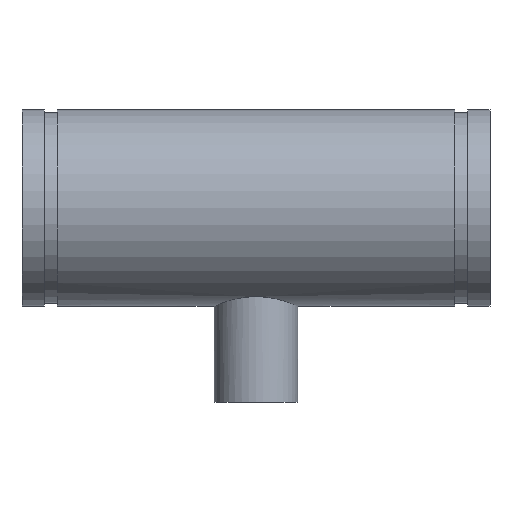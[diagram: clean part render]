
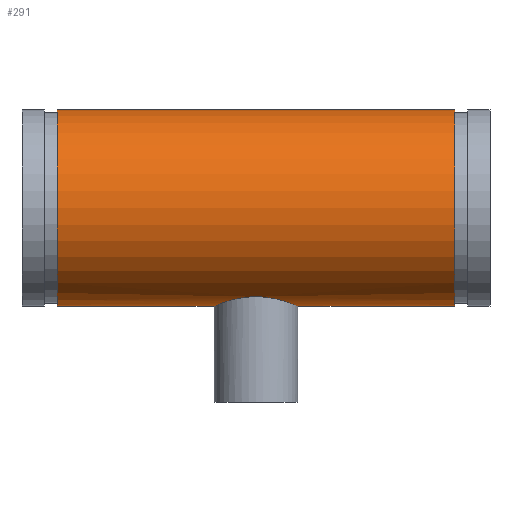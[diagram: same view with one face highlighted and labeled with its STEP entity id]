
A CAD part, top view. The second image highlights one B-rep face of the part: STEP entity #291.
In plain terms, the highlighted cylindrical face has radius 70.65 mm (diameter 141.3 mm), a full revolution.
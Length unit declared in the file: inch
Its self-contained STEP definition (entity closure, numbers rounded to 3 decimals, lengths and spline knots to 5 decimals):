
#45=B_SPLINE_CURVE_WITH_KNOTS('',3,(#511,#512,#513,#514,#515,#516,#517,
#518,#519,#520,#521,#522,#523,#524,#525,#526,#527,#528,#529,#530,#531,#532,
#533,#534,#535,#536,#537,#538,#539,#540,#541,#542,#543,#544,#545,#546,#547,
#548,#549,#550,#551,#552,#553,#554,#555,#556,#557,#558,#559,#560),
 .UNSPECIFIED.,.F.,.F.,(4,2,2,2,2,2,2,2,2,2,2,2,2,2,2,2,2,2,2,2,2,2,2,2,
4),(0.,0.57662,1.15323,1.72985,2.30647,
2.88231,3.45815,4.03399,4.60983,5.18567,
5.76151,6.33736,6.9132,7.48981,8.06643,
8.64305,9.21966,9.79628,10.3729,10.94951,
11.52613,12.10197,12.67781,13.25365,13.82949),
 .UNSPECIFIED.);
#46=B_SPLINE_CURVE_WITH_KNOTS('',3,(#561,#562,#563,#564,#565,#566,#567,
#568,#569,#570,#571,#572,#573,#574,#575,#576,#577,#578),.UNSPECIFIED.,.F.,
 .F.,(4,2,2,2,2,2,2,2,4),(13.82949,14.40533,14.98118,
15.55702,16.13286,16.70948,17.28609,17.86271,
18.43932),.UNSPECIFIED.);
#51=LINE('',#508,#59);
#59=VECTOR('',#410,2.7815);
#67=CYLINDRICAL_SURFACE('',#338,2.7815);
#77=FACE_BOUND('',#108,.T.);
#88=FACE_OUTER_BOUND('',#107,.T.);
#107=EDGE_LOOP('',(#221,#222,#223,#224));
#108=EDGE_LOOP('',(#225,#226));
#121=CIRCLE('',#321,2.7815);
#132=CIRCLE('',#337,2.7815);
#141=VERTEX_POINT('',#476);
#152=VERTEX_POINT('',#505);
#153=VERTEX_POINT('',#509);
#154=VERTEX_POINT('',#510);
#165=EDGE_CURVE('',#141,#141,#121,.T.);
#178=EDGE_CURVE('',#152,#152,#132,.T.);
#179=EDGE_CURVE('',#152,#141,#51,.T.);
#180=EDGE_CURVE('',#153,#154,#45,.T.);
#181=EDGE_CURVE('',#154,#153,#46,.T.);
#221=ORIENTED_EDGE('',*,*,#178,.T.);
#222=ORIENTED_EDGE('',*,*,#179,.T.);
#223=ORIENTED_EDGE('',*,*,#165,.T.);
#224=ORIENTED_EDGE('',*,*,#179,.F.);
#225=ORIENTED_EDGE('',*,*,#180,.F.);
#226=ORIENTED_EDGE('',*,*,#181,.F.);
#291=ADVANCED_FACE('',(#88,#77),#67,.T.);
#321=AXIS2_PLACEMENT_3D('',#477,#372,#373);
#337=AXIS2_PLACEMENT_3D('',#506,#406,#407);
#338=AXIS2_PLACEMENT_3D('',#507,#408,#409);
#372=DIRECTION('center_axis',(-1.,0.,0.));
#373=DIRECTION('ref_axis',(0.,-1.,0.));
#406=DIRECTION('center_axis',(1.,0.,0.));
#407=DIRECTION('ref_axis',(0.,-1.,0.));
#408=DIRECTION('center_axis',(-1.,0.,0.));
#409=DIRECTION('ref_axis',(0.,-1.,0.));
#410=DIRECTION('',(1.,0.,0.));
#476=CARTESIAN_POINT('',(5.63,2.7815,0.));
#477=CARTESIAN_POINT('Origin',(5.63,0.,0.));
#505=CARTESIAN_POINT('',(-5.63,2.7815,0.));
#506=CARTESIAN_POINT('Origin',(-5.63,0.,0.));
#507=CARTESIAN_POINT('Origin',(6.63,0.,0.));
#508=CARTESIAN_POINT('',(6.63,2.7815,0.));
#509=CARTESIAN_POINT('',(0.,-2.51527,-1.1875));
#510=CARTESIAN_POINT('',(-1.1875,-2.7815,0.));
#511=CARTESIAN_POINT('Ctrl Pts',(0.,-2.51527,-1.1875));
#512=CARTESIAN_POINT('Ctrl Pts',(0.07567,-2.51527,-1.1875));
#513=CARTESIAN_POINT('Ctrl Pts',(0.15356,-2.51878,-1.18015));
#514=CARTESIAN_POINT('Ctrl Pts',(0.3078,-2.53287,-1.14961));
#515=CARTESIAN_POINT('Ctrl Pts',(0.38416,-2.54343,-1.12642));
#516=CARTESIAN_POINT('Ctrl Pts',(0.53009,-2.56952,-1.06556));
#517=CARTESIAN_POINT('Ctrl Pts',(0.59979,-2.58505,-1.02783));
#518=CARTESIAN_POINT('Ctrl Pts',(0.72848,-2.6179,-0.94101));
#519=CARTESIAN_POINT('Ctrl Pts',(0.78747,-2.63519,-0.8919));
#520=CARTESIAN_POINT('Ctrl Pts',(0.89183,-2.66824,-0.78754));
#521=CARTESIAN_POINT('Ctrl Pts',(0.94093,-2.6852,-0.72859));
#522=CARTESIAN_POINT('Ctrl Pts',(1.02778,-2.71685,-0.59988));
#523=CARTESIAN_POINT('Ctrl Pts',(1.06554,-2.73152,-0.53012));
#524=CARTESIAN_POINT('Ctrl Pts',(1.12645,-2.75585,-0.38409));
#525=CARTESIAN_POINT('Ctrl Pts',(1.14964,-2.76551,-0.30768));
#526=CARTESIAN_POINT('Ctrl Pts',(1.18017,-2.77834,-0.15342));
#527=CARTESIAN_POINT('Ctrl Pts',(1.1875,-2.7815,-0.07557));
#528=CARTESIAN_POINT('Ctrl Pts',(1.1875,-2.7815,0.07557));
#529=CARTESIAN_POINT('Ctrl Pts',(1.18017,-2.77834,0.15342));
#530=CARTESIAN_POINT('Ctrl Pts',(1.14964,-2.76551,0.30768));
#531=CARTESIAN_POINT('Ctrl Pts',(1.12645,-2.75585,0.38409));
#532=CARTESIAN_POINT('Ctrl Pts',(1.06554,-2.73152,0.53012));
#533=CARTESIAN_POINT('Ctrl Pts',(1.02778,-2.71685,0.59988));
#534=CARTESIAN_POINT('Ctrl Pts',(0.94093,-2.6852,0.72859));
#535=CARTESIAN_POINT('Ctrl Pts',(0.89183,-2.66824,0.78754));
#536=CARTESIAN_POINT('Ctrl Pts',(0.78747,-2.63519,0.8919));
#537=CARTESIAN_POINT('Ctrl Pts',(0.72848,-2.6179,0.94101));
#538=CARTESIAN_POINT('Ctrl Pts',(0.59979,-2.58505,1.02783));
#539=CARTESIAN_POINT('Ctrl Pts',(0.53009,-2.56952,1.06556));
#540=CARTESIAN_POINT('Ctrl Pts',(0.38416,-2.54343,1.12642));
#541=CARTESIAN_POINT('Ctrl Pts',(0.3078,-2.53287,1.14961));
#542=CARTESIAN_POINT('Ctrl Pts',(0.15356,-2.51878,1.18015));
#543=CARTESIAN_POINT('Ctrl Pts',(0.07567,-2.51527,1.1875));
#544=CARTESIAN_POINT('Ctrl Pts',(-0.07567,-2.51527,
1.1875));
#545=CARTESIAN_POINT('Ctrl Pts',(-0.15356,-2.51878,1.18015));
#546=CARTESIAN_POINT('Ctrl Pts',(-0.3078,-2.53287,1.14961));
#547=CARTESIAN_POINT('Ctrl Pts',(-0.38416,-2.54343,1.12642));
#548=CARTESIAN_POINT('Ctrl Pts',(-0.53009,-2.56952,1.06556));
#549=CARTESIAN_POINT('Ctrl Pts',(-0.59979,-2.58505,1.02783));
#550=CARTESIAN_POINT('Ctrl Pts',(-0.72848,-2.6179,0.94101));
#551=CARTESIAN_POINT('Ctrl Pts',(-0.78747,-2.63519,0.8919));
#552=CARTESIAN_POINT('Ctrl Pts',(-0.89183,-2.66824,0.78754));
#553=CARTESIAN_POINT('Ctrl Pts',(-0.94093,-2.6852,0.72859));
#554=CARTESIAN_POINT('Ctrl Pts',(-1.02778,-2.71685,0.59988));
#555=CARTESIAN_POINT('Ctrl Pts',(-1.06554,-2.73152,0.53012));
#556=CARTESIAN_POINT('Ctrl Pts',(-1.12645,-2.75585,0.38409));
#557=CARTESIAN_POINT('Ctrl Pts',(-1.14964,-2.76551,0.30768));
#558=CARTESIAN_POINT('Ctrl Pts',(-1.18017,-2.77834,0.15342));
#559=CARTESIAN_POINT('Ctrl Pts',(-1.1875,-2.7815,0.07557));
#560=CARTESIAN_POINT('Ctrl Pts',(-1.1875,-2.7815,0.));
#561=CARTESIAN_POINT('Ctrl Pts',(-1.1875,-2.7815,0.));
#562=CARTESIAN_POINT('Ctrl Pts',(-1.1875,-2.7815,-0.07557));
#563=CARTESIAN_POINT('Ctrl Pts',(-1.18017,-2.77834,-0.15342));
#564=CARTESIAN_POINT('Ctrl Pts',(-1.14964,-2.76551,-0.30768));
#565=CARTESIAN_POINT('Ctrl Pts',(-1.12645,-2.75585,-0.38409));
#566=CARTESIAN_POINT('Ctrl Pts',(-1.06554,-2.73152,-0.53012));
#567=CARTESIAN_POINT('Ctrl Pts',(-1.02778,-2.71685,-0.59988));
#568=CARTESIAN_POINT('Ctrl Pts',(-0.94093,-2.6852,-0.72859));
#569=CARTESIAN_POINT('Ctrl Pts',(-0.89183,-2.66824,-0.78754));
#570=CARTESIAN_POINT('Ctrl Pts',(-0.78747,-2.63519,-0.8919));
#571=CARTESIAN_POINT('Ctrl Pts',(-0.72848,-2.6179,-0.94101));
#572=CARTESIAN_POINT('Ctrl Pts',(-0.59979,-2.58505,-1.02783));
#573=CARTESIAN_POINT('Ctrl Pts',(-0.53009,-2.56952,-1.06556));
#574=CARTESIAN_POINT('Ctrl Pts',(-0.38416,-2.54343,-1.12642));
#575=CARTESIAN_POINT('Ctrl Pts',(-0.3078,-2.53287,-1.14961));
#576=CARTESIAN_POINT('Ctrl Pts',(-0.15356,-2.51878,-1.18015));
#577=CARTESIAN_POINT('Ctrl Pts',(-0.07567,-2.51527,
-1.1875));
#578=CARTESIAN_POINT('Ctrl Pts',(0.,-2.51527,
-1.1875));
